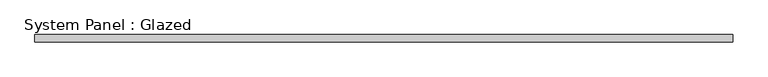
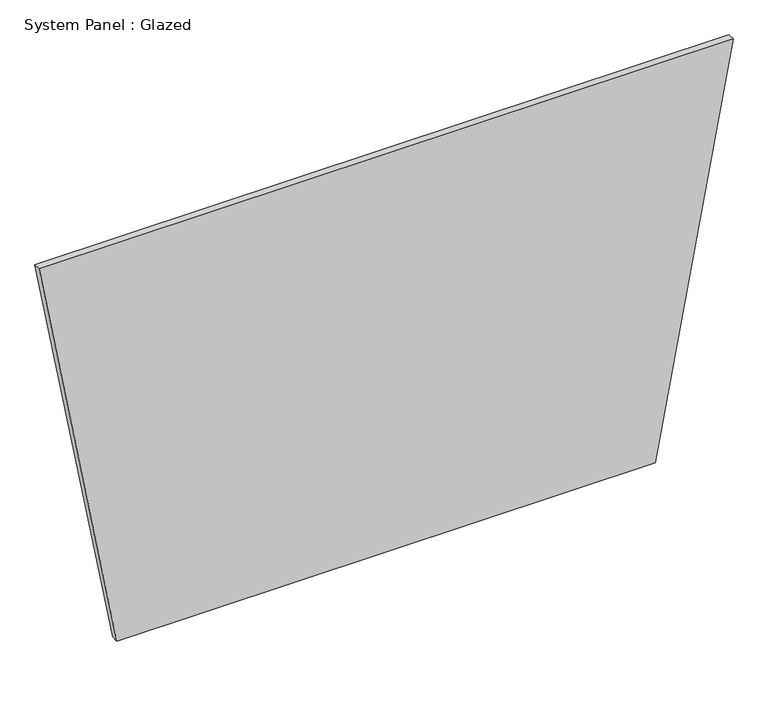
"""IFC4 building model written with IfcOpenShell, lengths in millimetres: plate geometry, System Panel : Glazed."""

from ifc_helpers import new_model, si_unit, frame, origin, place, context, project, spatial, polyline, outline, extrude, source, transform, mapped, element, save


def system_panel_glazed_934d1cd6(model_context):
    return source(origin(), model_context, "Body", "SweptSolid", [
        extrude(outline(polyline([(0.0, -958.6836288), (0.0, 958.6836288), (1498.5528112, 1236.0200164), (1498.5528112, -1236.0200164), (0.0, -958.6836288)])), frame((0.0, 19.05, 0.0), z_axis=(0.0, 1.0, 0.0), x_axis=(0.0, 0.0, 1.0)), (0.0, 0.0, 1.0), 25.4),
    ])


if __name__ == "__main__":
    model = new_model("IFC4")
    model_context = context("Model", 3, world=origin())
    ifc_project = project(units=[si_unit("LENGTHUNIT", "METRE", prefix="MILLI")], contexts=[model_context])
    site = spatial("IfcSite", under=ifc_project)
    building = spatial("IfcBuilding", under=site)
    placement = place(None, origin())
    system_panel_glazed_shape = system_panel_glazed_934d1cd6(model_context)
    element("IfcPlate", 1, ObjectType="System Panel : Glazed", at=placement, inside=building, context=model_context, shape_type="MappedRepresentation", body=[
        mapped(system_panel_glazed_shape, transform((0.0, 0.0, 0.0), x_axis=(1.0, 0.0, 0.0), y_axis=(0.0, 1.0, 0.0), z_axis=(0.0, 0.0, 1.0))),
    ])
    save(model, "model.ifc")
